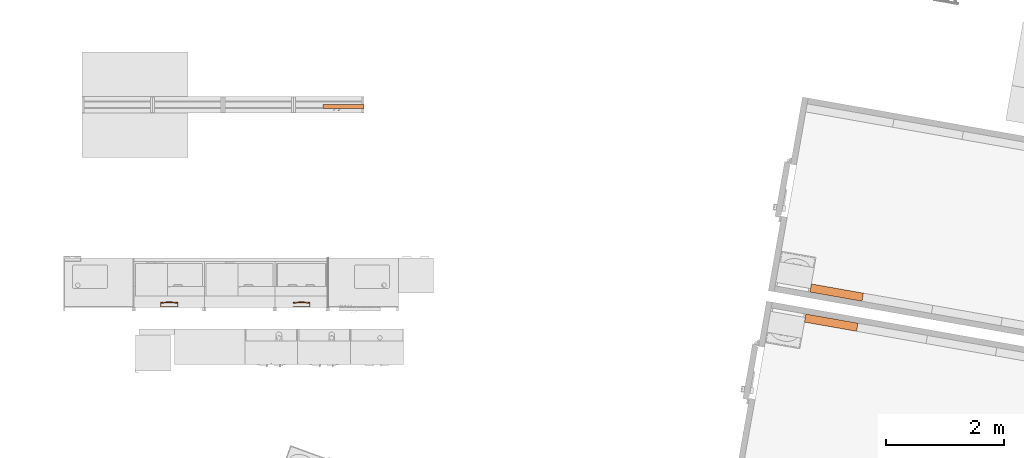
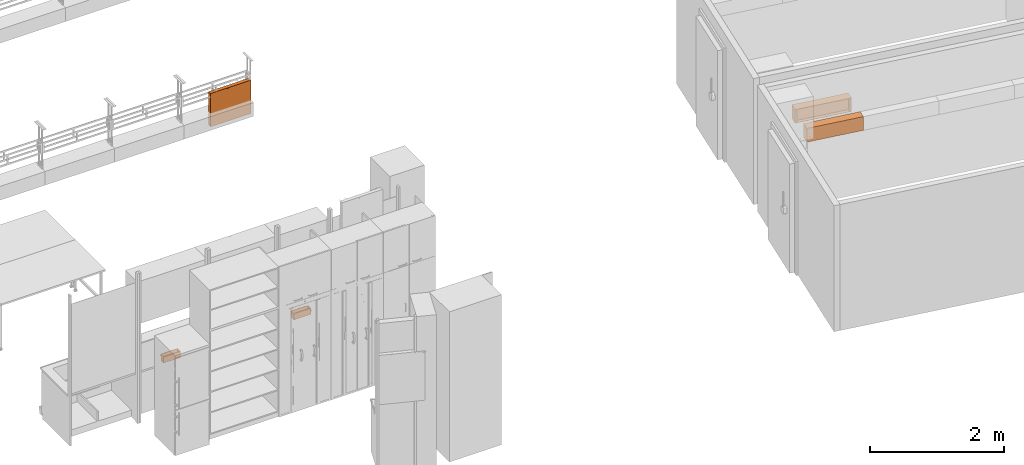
# One storey, part 21 of 32: 5 proxies.
"""IFC2X3 building model written with IfcOpenShell, lengths in metres."""

from ifc_helpers import new_model, entity, si_unit, converted_unit, derived_unit, direction, frame, frame_2d, origin, origin_2d_with_axis, place, context, subcontext, project, spatial, rectangle, extrude, face_set, surface_model, source, transform, mapped, material, material_list, type_object, type_shapes, element, save


model = new_model("IFC2X3")

# Units and contexts
model_context = context("Model", 3, precision=1e-05, world=origin(), true_north=direction((6.12303176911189e-17, 1.0)))
body_context = subcontext(model_context, "Body", "Model", "MODEL_VIEW")
ifc_project = project(units=[si_unit("LENGTHUNIT", "METRE"), si_unit("AREAUNIT", "SQUARE_METRE"), si_unit("VOLUMEUNIT", "CUBIC_METRE"), converted_unit("PLANEANGLEUNIT", "DEGREE", entity("IfcRatioMeasure", 0.0174532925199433), si_unit("PLANEANGLEUNIT", "RADIAN"), dimensions=[0, 0, 0, 0, 0, 0, 0]), si_unit("MASSUNIT", "GRAM", prefix="KILO"), derived_unit("MASSDENSITYUNIT", [(si_unit("MASSUNIT", "GRAM", prefix="KILO"), 1), (si_unit("LENGTHUNIT", "METRE"), -3)]), derived_unit("MOMENTOFINERTIAUNIT", [(si_unit("LENGTHUNIT", "METRE"), 4)]), si_unit("TIMEUNIT", "SECOND"), si_unit("FREQUENCYUNIT", "HERTZ"), si_unit("THERMODYNAMICTEMPERATUREUNIT", "DEGREE_CELSIUS"), derived_unit("THERMALTRANSMITTANCEUNIT", [(si_unit("MASSUNIT", "GRAM", prefix="KILO"), 1), (si_unit("THERMODYNAMICTEMPERATUREUNIT", "KELVIN"), -1), (si_unit("TIMEUNIT", "SECOND"), -3)]), derived_unit("VOLUMETRICFLOWRATEUNIT", [(si_unit("LENGTHUNIT", "METRE"), 3), (si_unit("TIMEUNIT", "SECOND"), -1)]), si_unit("ELECTRICCURRENTUNIT", "AMPERE"), si_unit("ELECTRICVOLTAGEUNIT", "VOLT"), si_unit("POWERUNIT", "WATT"), si_unit("FORCEUNIT", "NEWTON", prefix="KILO"), si_unit("ILLUMINANCEUNIT", "LUX"), si_unit("LUMINOUSFLUXUNIT", "LUMEN"), si_unit("LUMINOUSINTENSITYUNIT", "CANDELA"), derived_unit("USERDEFINED", [(si_unit("MASSUNIT", "GRAM", prefix="KILO"), -1), (si_unit("LENGTHUNIT", "METRE"), -2), (si_unit("TIMEUNIT", "SECOND"), 3), (si_unit("LUMINOUSFLUXUNIT", "LUMEN"), 1)]), derived_unit("LINEARVELOCITYUNIT", [(si_unit("LENGTHUNIT", "METRE"), 1), (si_unit("TIMEUNIT", "SECOND"), -1)]), si_unit("PRESSUREUNIT", "PASCAL"), derived_unit("USERDEFINED", [(si_unit("LENGTHUNIT", "METRE"), -2), (si_unit("MASSUNIT", "GRAM", prefix="KILO"), 1), (si_unit("TIMEUNIT", "SECOND"), -2)]), derived_unit("LINEARFORCEUNIT", [(si_unit("MASSUNIT", "GRAM", prefix="KILO"), 1), (si_unit("LENGTHUNIT", "METRE"), 1), (si_unit("TIMEUNIT", "SECOND"), -2), (si_unit("LENGTHUNIT", "METRE"), -1)]), derived_unit("PLANARFORCEUNIT", [(si_unit("MASSUNIT", "GRAM", prefix="KILO"), 1), (si_unit("LENGTHUNIT", "METRE"), 1), (si_unit("TIMEUNIT", "SECOND"), -2), (si_unit("LENGTHUNIT", "METRE"), -2)])], contexts=[model_context])

# Site, building, storey
site_placement = place(None, origin())
site = spatial("IfcSite", under=ifc_project, at=site_placement, Name="Default", CompositionType="ELEMENT")
building_placement = place(site_placement, origin())
building = spatial("IfcBuilding", under=site, at=building_placement, CompositionType="ELEMENT")
storey_placement = place(building_placement, origin())
storey = spatial("IfcBuildingStorey", under=building, at=storey_placement, Name="00 EG", CompositionType="ELEMENT", Elevation=0.0)

# Proxies
ifc_material_1 = material(Name="dh_Weiß")
building_element_proxy_type_1 = type_object("IfcBuildingElementProxyType", Name="dh_Trichterbecken:Trichterbecken-ST", PredefinedType="NOTDEFINED", material=ifc_material_1)
shared_shape_1 = source(origin(), body_context, "Body", "SurfaceModel", [
    surface_model("IfcFaceBasedSurfaceModel", [(0.00159527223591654, 0.00770363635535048, 0.113595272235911), (0.00159527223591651, 0.0967036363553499, 0.113595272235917), (0.295595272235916, 0.0967036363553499, 0.113595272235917), (0.295595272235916, 0.0077036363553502, 0.11359527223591), (0.148595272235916, 0.001595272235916, 0.113595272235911), (0.290595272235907, 0.0867036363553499, 0.11359527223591), (0.00659527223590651, 0.0867036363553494, 0.113595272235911), (0.00659527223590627, 0.0137036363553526, 0.113595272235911), (0.148595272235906, 0.00758737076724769, 0.113595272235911), (0.290595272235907, 0.0137036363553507, 0.11359527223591), (0.295595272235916, 0.0257036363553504, 0.001595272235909), (0.148595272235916, 0.0195952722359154, 0.0015952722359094), (0.001595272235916, 0.0257036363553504, 0.00159527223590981), (0.00159527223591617, 0.0967036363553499, 0.00159527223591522), (0.0515952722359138, 0.0967036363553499, 0.00159527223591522), (0.295595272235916, 0.0967036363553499, 0.00159527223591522), (0.00659527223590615, 0.0867036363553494, 0.00159527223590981), (0.00659527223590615, 0.0317036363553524, 0.00159527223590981), (0.148595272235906, 0.0255873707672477, 0.0015952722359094), (0.290595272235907, 0.0317036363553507, 0.001595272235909), (0.290595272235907, 0.0867036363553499, 0.001595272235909), (0.0515952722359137, 0.0867036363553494, 0.00159527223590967), (0.0750952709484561, 0.0046494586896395, 0.113595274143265), (0.0750952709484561, 0.0226494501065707, 0.00159527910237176), (0.197595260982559, 0.0216313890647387, 0.00159527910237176), (0.222095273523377, 0.0046494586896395, 0.113595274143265), (0.219595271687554, 0.0106455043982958, 0.113595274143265), (0.219595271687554, 0.0286455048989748, 0.00159527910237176), (0.0775952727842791, 0.0106455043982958, 0.113595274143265), (0.101261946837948, 0.0276261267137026, 0.00159527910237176), (0.0554775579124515, 0.0867036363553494, 0.00210638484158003), (0.0590952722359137, 0.0867036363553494, 0.00360489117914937), (0.0622018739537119, 0.0867036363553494, 0.00598867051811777), (0.0645856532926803, 0.0867036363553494, 0.00909527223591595), (0.0660841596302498, 0.0867036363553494, 0.0127129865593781), (0.0665952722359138, 0.0867036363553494, 0.0165952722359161), (0.0660841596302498, 0.0867036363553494, 0.0204775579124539), (0.0645856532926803, 0.0867036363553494, 0.0240952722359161), (0.0622018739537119, 0.0867036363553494, 0.0272018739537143), (0.0590952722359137, 0.0867036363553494, 0.0295856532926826), (0.0554775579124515, 0.0867036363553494, 0.031084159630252), (0.0515952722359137, 0.0867036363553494, 0.031595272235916), (0.0477129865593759, 0.0867036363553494, 0.031084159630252), (0.0440952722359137, 0.0867036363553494, 0.0295856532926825), (0.0409886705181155, 0.0867036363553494, 0.0272018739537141), (0.0386048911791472, 0.0867036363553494, 0.0240952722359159), (0.0371063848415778, 0.0867036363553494, 0.0204775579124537), (0.0365952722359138, 0.0867036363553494, 0.016595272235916), (0.0371063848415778, 0.0867036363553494, 0.0127129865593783), (0.0386048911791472, 0.0867036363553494, 0.00909527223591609), (0.0409886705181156, 0.0867036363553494, 0.00598867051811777), (0.0440952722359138, 0.0867036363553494, 0.00360489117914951), (0.0477129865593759, 0.0867036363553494, 0.00210638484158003), (0.0515952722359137, 0.0867036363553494, 0.00159527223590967), (0.0554775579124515, 0.0967036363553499, 0.00210638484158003), (0.0590952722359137, 0.0967036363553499, 0.00360489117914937), (0.0622018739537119, 0.0967036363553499, 0.00598867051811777), (0.0645856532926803, 0.0967036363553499, 0.00909527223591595), (0.0660841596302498, 0.0967036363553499, 0.0127129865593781), (0.0665952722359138, 0.0967036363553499, 0.0165952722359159), (0.0660841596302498, 0.0967036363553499, 0.0204775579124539), (0.0645856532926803, 0.0967036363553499, 0.0240952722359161), (0.0622018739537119, 0.0967036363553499, 0.0272018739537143), (0.0590952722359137, 0.0967036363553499, 0.0295856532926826), (0.0554775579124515, 0.0967036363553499, 0.031084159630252), (0.0515952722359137, 0.0967036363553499, 0.031595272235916), (0.0477129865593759, 0.0967036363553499, 0.031084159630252), (0.0440952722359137, 0.0967036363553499, 0.0295856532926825), (0.0409886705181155, 0.0967036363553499, 0.0272018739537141), (0.0386048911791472, 0.0967036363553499, 0.0240952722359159), (0.0371063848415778, 0.0967036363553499, 0.0204775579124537), (0.0365952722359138, 0.0967036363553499, 0.0165952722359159), (0.0371063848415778, 0.0967036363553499, 0.0127129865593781), (0.0386048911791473, 0.0967036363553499, 0.00909527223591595), (0.0409886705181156, 0.0967036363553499, 0.00598867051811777), (0.0440952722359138, 0.0967036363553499, 0.00360489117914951), (0.047712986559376, 0.0967036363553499, 0.00210638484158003), (0.0515952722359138, 0.0967036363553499, 0.00159527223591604)], [face_set([[[0, 1, 2, 3, 4], [5, 6, 7, 8, 9]], [[10, 11, 12, 13, 14, 15], [16, 17, 18, 19, 20, 21]], [[12, 22, 0]], [[23, 4, 22]], [[4, 23, 11]], [[4, 24, 25]], [[12, 23, 22]], [[10, 3, 25]], [[10, 25, 24]], [[24, 4, 11]], [[3, 10, 15, 2]], [[9, 19, 20, 5]], [[9, 26, 19]], [[18, 27, 26, 8]], [[28, 29, 8]], [[26, 27, 19]], [[28, 7, 17]], [[29, 28, 17]], [[18, 8, 29]], [[6, 7, 17, 16]], [[12, 13, 1, 0]], [[5, 20, 21, 30, 31, 32, 33, 34, 35, 36, 37, 38, 39, 40, 41, 42, 43, 44, 45, 46, 47, 48, 49, 50, 51, 52, 53, 16, 6]], [[2, 15, 14, 54, 55, 56, 57, 58, 59, 60, 61, 62, 63, 64, 65, 66, 67, 68, 69, 70, 71, 72, 73, 74, 75, 76, 77, 13, 1]], [[48, 72, 73, 49]], [[47, 71, 72, 48]], [[51, 75, 76, 52]], [[50, 74, 75, 51]], [[49, 73, 74, 50]], [[14, 21, 52, 76]], [[32, 56, 55, 31]], [[30, 54, 55, 31]], [[35, 59, 58, 34]], [[34, 58, 57, 33]], [[33, 57, 56, 32]], [[21, 14, 54, 30]], [[37, 61, 60, 36]], [[36, 60, 59, 35]], [[40, 64, 63, 39]], [[39, 63, 62, 38]], [[38, 62, 61, 37]], [[64, 40, 41, 65]], [[43, 67, 68, 44]], [[42, 66, 67, 43]], [[46, 70, 71, 47]], [[45, 69, 70, 46]], [[44, 68, 69, 45]], [[42, 66, 65, 41]]])]),
])
type_shapes(building_element_proxy_type_1, [shared_shape_1])
for number, where, z_axis, x_axis in (
    (1, (14.9485952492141, 10.311703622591, 0.898404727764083), (0.0, 0.0, 1.0), (-1.0, 0.0, 0.0)),
    (2, (12.6985952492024, 10.311703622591, 0.898404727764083), (0.0, 0.0, 1.0), (-1.0, 0.0, 0.0)),
):
    element("IfcBuildingElementProxy", number, at=place(storey_placement, frame(where, z_axis=z_axis, x_axis=x_axis)), inside=storey, type_object=building_element_proxy_type_1, material=ifc_material_1, Name="dh_Trichterbecken:Trichterbecken-ST", ObjectType="dh_Trichterbecken:Trichterbecken-ST", context=body_context, shape_type="MappedRepresentation", body=[
        mapped(shared_shape_1, transform((0.0, 0.0, 0.0), scale=1.0)),
    ])
ifc_material_2 = material(Name="dh_EZ blau")
ifc_material_list_1 = material_list([ifc_material_2, ifc_material_1])
ifc_material_3 = material(Name="dh_Blau")
ifc_material_list_2 = material_list([ifc_material_1, ifc_material_2, ifc_material_3])
building_element_proxy_type_2 = type_object("IfcBuildingElementProxyType", Name="dh_Einzel_ MEK:MEK 90", PredefinedType="NOTDEFINED", material=ifc_material_list_2)
shared_shape_2 = source(origin(), body_context, "Body", "SweptSolid", [
    extrude(rectangle(XDim=0.06, YDim=0.0299999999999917, at=origin_2d_with_axis()), frame((0.285000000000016, 0.33, 1.25499999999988), z_axis=(0.0, 0.0, 1.0), x_axis=(0.0, 1.0, 0.0)), (0.0, 0.0, 1.0), 0.240000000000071),
    extrude(rectangle(XDim=0.06, YDim=0.0299999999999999, at=origin_2d_with_axis()), frame((-0.584999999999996, 0.33, 1.25499999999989), z_axis=(0.0, 0.0, 1.0), x_axis=(0.0, 1.0, 0.0)), (0.0, 0.0, 1.0), 0.240000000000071),
    extrude(rectangle(XDim=0.06, YDim=0.900000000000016, at=origin_2d_with_axis()), frame((-0.149999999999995, 0.33, 1.49499999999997), z_axis=(0.0, 0.0, 1.0), x_axis=(0.0, 1.0, 0.0)), (0.0, 0.0, 1.0), 0.00499999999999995),
    extrude(rectangle(XDim=0.900000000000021, YDim=0.14, at=frame_2d((-2.55351295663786e-15, -0.00333333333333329), x_axis=(1.0, 0.0))), frame((-0.149999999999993, 0.293333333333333, 1.24999999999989)), (0.0, 0.0, 1.0), 0.00499999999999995),
    extrude(rectangle(XDim=0.08, YDim=0.900000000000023, at=frame_2d((0.0133333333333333, 0.0), x_axis=(1.0, 0.0))), frame((-0.149999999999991, 0.273333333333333, 1.49499999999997), z_axis=(0.0, 0.0, 1.0), x_axis=(0.0, -1.0, 0.0)), (0.0, 0.0, 1.0), 0.00499999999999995),
    extrude(rectangle(XDim=0.9, YDim=0.08, at=origin_2d_with_axis()), frame((-0.15, 0.26, 1.25499999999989), z_axis=(0.0, 0.0, 1.0), x_axis=(-1.0, 0.0, 0.0)), (0.0, 0.0, 1.0), 0.24000000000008),
])
type_shapes(building_element_proxy_type_2, [shared_shape_2])
proxy_1_placement = place(storey_placement, frame((23.8135409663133, 10.7753845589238, 0.0), z_axis=(0.0, 0.0, 1.0), x_axis=(-0.984807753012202, 0.173648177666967, 0.0)))
element("IfcBuildingElementProxy", 3, at=proxy_1_placement, inside=storey, type_object=building_element_proxy_type_2, material=ifc_material_list_1, Name="dh_Einzel_ MEK:MEK 90", ObjectType="dh_Einzel_ MEK:MEK 90", context=body_context, shape_type="MappedRepresentation", body=[
    mapped(shared_shape_2, transform((0.0, 0.0, 0.0), scale=1.0)),
])
ifc_material_list_3 = material_list([ifc_material_2, ifc_material_1])
proxy_2_placement = place(storey_placement, frame((23.9160006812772, 9.64034887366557, 0.0), z_axis=(0.0, 0.0, 1.0), x_axis=(0.984807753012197, -0.173648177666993, 0.0)))
element("IfcBuildingElementProxy", 4, at=proxy_2_placement, inside=storey, type_object=building_element_proxy_type_2, material=ifc_material_list_3, Name="dh_Einzel_ MEK:MEK 90", ObjectType="dh_Einzel_ MEK:MEK 90", context=body_context, shape_type="MappedRepresentation", body=[
    mapped(shared_shape_2, transform((0.0, 0.0, 0.0), scale=1.0)),
])
ifc_material_4 = material(Name="dh_Stellfläche")
building_element_proxy_type_3 = type_object("IfcBuildingElementProxyType", Name="dh_Gerät_Stellfläche Bestand:Nutzergerät", PredefinedType="NOTDEFINED", material=ifc_material_4)
shared_shape_3 = source(origin(), body_context, "Body", "SurfaceModel", [
    surface_model("IfcFaceBasedSurfaceModel", [(-0.355113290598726, -0.0453817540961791, 0.615000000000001), (-0.35670056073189, -0.0470458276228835, 0.615000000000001), (-0.346946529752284, -0.0567998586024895, 0.615000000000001), (-0.332277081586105, -0.0616384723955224, 0.615000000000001), (-0.312948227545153, -0.0616384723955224, 0.615000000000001), (-0.298278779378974, -0.0567998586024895, 0.615000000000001), (-0.288166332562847, -0.0466618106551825, 0.615000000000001), (-0.288166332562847, -0.0314547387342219, 0.615000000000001), (-0.29308174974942, -0.0214446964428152, 0.615000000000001), (-0.298073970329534, -0.0163500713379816, 0.615000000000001), (-0.30790480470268, -0.0115114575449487, 0.615000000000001), (-0.336450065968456, -0.00188543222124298, 0.615000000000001), (-0.345692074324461, 0.00295318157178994, 0.615000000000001), (-0.350197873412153, 0.00745898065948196, 0.615000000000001), (-0.354857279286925, 0.0166497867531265, 0.615000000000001), (-0.354857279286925, 0.0255845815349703, 0.615000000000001), (-0.345820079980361, 0.0347241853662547, 0.615000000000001), (-0.331944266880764, 0.0393579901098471, 0.615000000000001), (-0.313204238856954, 0.0393579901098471, 0.615000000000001), (-0.299328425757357, 0.0347241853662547, 0.615000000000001), (-0.290112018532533, 0.0252005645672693, 0.615000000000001), (-0.288447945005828, 0.0268646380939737, 0.615000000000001), (-0.298278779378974, 0.0366186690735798, 0.615000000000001), (-0.312948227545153, 0.041585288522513, 0.615000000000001), (-0.332277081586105, 0.041585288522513, 0.615000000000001), (-0.346946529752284, 0.0366186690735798, 0.615000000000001), (-0.356982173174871, 0.0264550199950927, 0.615000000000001), (-0.356982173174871, 0.016112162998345, 0.615000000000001), (-0.352117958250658, 0.00610212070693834, 0.615000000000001), (-0.347074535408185, 0.00100749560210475, 0.615000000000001), (-0.337243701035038, -0.00383111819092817, 0.615000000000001), (-0.308698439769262, -0.0134571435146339, 0.615000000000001), (-0.299456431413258, -0.0182957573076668, 0.615000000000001), (-0.294950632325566, -0.0228015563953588, 0.615000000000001), (-0.290368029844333, -0.0320691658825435, 0.615000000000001), (-0.290368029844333, -0.0457657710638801, 0.615000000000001), (-0.299328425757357, -0.0549053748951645, 0.615000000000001), (-0.313204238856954, -0.0595647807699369, 0.615000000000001), (-0.331944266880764, -0.0595647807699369, 0.615000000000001), (-0.345820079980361, -0.0549053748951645, 0.615000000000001), (-0.230691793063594, -0.0616384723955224, 0.615000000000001), (-0.230691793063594, -0.0595647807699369, 0.615000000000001), (-0.239908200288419, -0.0595647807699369, 0.615000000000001), (-0.248740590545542, -0.055084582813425, 0.615000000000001), (-0.253399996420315, -0.0413879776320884, 0.615000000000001), (-0.253399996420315, 0.00533408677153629, 0.615000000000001), (-0.235402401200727, 0.00533408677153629, 0.615000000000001), (-0.235402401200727, 0.00745898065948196, 0.615000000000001), (-0.253399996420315, 0.00745898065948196, 0.615000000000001), (-0.253399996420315, 0.0399468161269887, 0.615000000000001), (-0.25557609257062, 0.0399468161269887, 0.615000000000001), (-0.25557609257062, 0.00745898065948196, 0.615000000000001), (-0.268735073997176, 0.00745898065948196, 0.615000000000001), (-0.268735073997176, 0.00533408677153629, 0.615000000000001), (-0.25557609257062, 0.00533408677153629, 0.615000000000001), (-0.25557609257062, -0.0416439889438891, 0.615000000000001), (-0.250660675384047, -0.0566974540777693, 0.615000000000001), (-0.2404458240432, -0.0616384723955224, 0.615000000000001), (-0.201327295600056, -0.0599999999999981, 0.615000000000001), (-0.19920240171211, -0.0599999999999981, 0.615000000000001), (-0.19920240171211, 0.00666534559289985, 0.615000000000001), (-0.201327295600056, 0.00666534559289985, 0.615000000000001), (-0.173294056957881, -0.0922318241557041, 0.615000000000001), (-0.173294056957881, -0.0944079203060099, 0.615000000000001), (-0.163744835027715, -0.0944079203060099, 0.615000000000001), (-0.153581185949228, -0.0893644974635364, 0.615000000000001), (-0.148665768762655, -0.0744390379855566, 0.615000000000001), (-0.148665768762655, 0.00651173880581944, 0.615000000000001), (-0.150867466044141, 0.00651173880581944, 0.615000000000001), (-0.150867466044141, -0.0741574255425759, 0.615000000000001), (-0.155501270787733, -0.087700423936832, 0.615000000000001), (-0.164333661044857, -0.0922318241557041, 0.615000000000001), (-0.100049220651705, -0.0875980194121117, 0.615000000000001), (-0.101175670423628, -0.0895181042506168, 0.615000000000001), (-0.0913448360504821, -0.0944079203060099, 0.615000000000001), (-0.0765473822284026, -0.0944079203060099, 0.615000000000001), (-0.0666397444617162, -0.0895181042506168, 0.615000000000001), (-0.0615963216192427, -0.0843466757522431, 0.615000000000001), (-0.0566809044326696, -0.069728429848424, 0.615000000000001), (-0.0566809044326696, 0.00615332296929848, 0.615000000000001), (-0.0588826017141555, 0.00615332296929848, 0.615000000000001), (-0.0588826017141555, -0.00552079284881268, 0.615000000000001), (-0.0666397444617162, 0.0023387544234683, 0.615000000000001), (-0.0765473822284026, 0.00717736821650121, 0.615000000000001), (-0.0913448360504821, 0.00717736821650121, 0.615000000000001), (-0.101303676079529, 0.0023387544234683, 0.615000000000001), (-0.111057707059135, -0.00756888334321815, 0.615000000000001), (-0.115973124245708, -0.0221871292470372, 0.615000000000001), (-0.115973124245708, -0.0319923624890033, 0.615000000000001), (-0.111057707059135, -0.0465850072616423, 0.615000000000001), (-0.101303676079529, -0.0564926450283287, 0.615000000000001), (-0.0913448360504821, -0.0612544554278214, 0.615000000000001), (-0.0765473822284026, -0.0612544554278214, 0.615000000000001), (-0.0666397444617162, -0.0564926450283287, 0.615000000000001), (-0.0588826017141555, -0.0485818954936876, 0.615000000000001), (-0.0588826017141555, -0.0694724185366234, 0.615000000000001), (-0.0634652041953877, -0.0832970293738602, 0.615000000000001), (-0.0679710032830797, -0.0875980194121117, 0.615000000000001), (-0.077059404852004, -0.0922318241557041, 0.615000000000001), (-0.0908072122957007, -0.0922318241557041, 0.615000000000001), (-0.0588826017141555, -0.0452537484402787, 0.615000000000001), (-0.0679710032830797, -0.0542909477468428, 0.615000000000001), (-0.077059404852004, -0.0588735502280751, 0.615000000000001), (-0.0908072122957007, -0.0588735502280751, 0.615000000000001), (-0.099921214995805, -0.0542909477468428, 0.615000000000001), (-0.10921442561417, -0.0451257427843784, 0.615000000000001), (-0.113797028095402, -0.0312499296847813, 0.615000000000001), (-0.113797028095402, -0.0220079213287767, 0.615000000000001), (-0.10921442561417, -0.00813210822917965, 0.615000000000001), (-0.099921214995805, 0.000956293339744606, 0.615000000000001), (-0.0908072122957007, 0.00561569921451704, 0.615000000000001), (-0.077059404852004, 0.00561569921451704, 0.615000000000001), (-0.0679710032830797, 0.000956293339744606, 0.615000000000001), (-0.0588826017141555, -0.00800410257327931, 0.615000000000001), (-0.0178183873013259, -0.0599999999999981, 0.615000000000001), (-0.0156934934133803, -0.0599999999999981, 0.615000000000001), (-0.0156934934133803, -0.0413367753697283, 0.615000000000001), (0.00230410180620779, -0.0235439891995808, 0.615000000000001), (0.0347919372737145, -0.0599999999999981, 0.615000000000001), (0.0364560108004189, -0.0587455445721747, 0.615000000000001), (0.00376336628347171, -0.0214958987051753, 0.615000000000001), (0.0316685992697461, 0.00625572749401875, 0.615000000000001), (0.0300813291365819, 0.00784299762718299, 0.615000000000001), (-0.0156934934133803, -0.0379574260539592, 0.615000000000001), (-0.0156934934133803, 0.0399468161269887, 0.615000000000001), (-0.0178183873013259, 0.0399468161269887, 0.615000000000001), (0.120146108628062, -0.0469178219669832, 0.615000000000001), (0.125061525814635, -0.0322227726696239, 0.615000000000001), (0.125061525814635, -0.0223663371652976, 0.615000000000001), (0.120146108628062, -0.00767128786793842, 0.615000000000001), (0.110315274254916, 0.00231315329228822, 0.615000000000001), (0.10040763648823, 0.00717736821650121, 0.615000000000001), (0.0856101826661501, 0.00717736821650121, 0.615000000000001), (0.0756513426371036, 0.00231315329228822, 0.615000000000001), (0.0658973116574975, -0.00767128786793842, 0.615000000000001), (0.0609818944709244, -0.0223663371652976, 0.615000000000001), (0.0609818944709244, -0.0322227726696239, 0.615000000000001), (0.0658973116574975, -0.0469178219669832, 0.615000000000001), (0.0756513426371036, -0.0568510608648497, 0.615000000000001), (0.0856101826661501, -0.0616384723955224, 0.615000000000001), (0.10040763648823, -0.0616384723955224, 0.615000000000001), (0.110315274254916, -0.0568510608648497, 0.615000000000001), (0.118200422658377, -0.0451257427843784, 0.615000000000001), (0.108984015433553, -0.0542909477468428, 0.615000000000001), (0.0998956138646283, -0.0588735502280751, 0.615000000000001), (0.0861478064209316, -0.0588735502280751, 0.615000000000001), (0.0770338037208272, -0.0542909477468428, 0.615000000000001), (0.0677405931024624, -0.0451257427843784, 0.615000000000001), (0.0631579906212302, -0.0312499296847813, 0.615000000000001), (0.0631579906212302, -0.0220079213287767, 0.615000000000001), (0.0677405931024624, -0.00813210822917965, 0.615000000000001), (0.0770338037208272, 0.000956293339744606, 0.615000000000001), (0.0861478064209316, 0.00561569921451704, 0.615000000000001), (0.0998956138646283, 0.00561569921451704, 0.615000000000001), (0.108984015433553, 0.000956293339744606, 0.615000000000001), (0.118200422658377, -0.00813210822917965, 0.615000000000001), (0.12285982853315, -0.0220079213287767, 0.615000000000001), (0.12285982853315, -0.0312499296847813, 0.615000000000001), (0.159136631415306, -0.0599999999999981, 0.615000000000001), (0.161261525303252, -0.0599999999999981, 0.615000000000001), (0.161261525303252, -0.0413367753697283, 0.615000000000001), (0.17925912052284, -0.0235439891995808, 0.615000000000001), (0.211746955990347, -0.0599999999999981, 0.615000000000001), (0.213411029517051, -0.0587455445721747, 0.615000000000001), (0.180718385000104, -0.0214958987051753, 0.615000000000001), (0.208623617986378, 0.00625572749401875, 0.615000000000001), (0.207036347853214, 0.00784299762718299, 0.615000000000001), (0.161261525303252, -0.0379574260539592, 0.615000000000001), (0.161261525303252, 0.0399468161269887, 0.615000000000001), (0.159136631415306, 0.0399468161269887, 0.615000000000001), (0.296973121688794, -0.0471994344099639, 0.615000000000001), (0.29530904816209, -0.0455353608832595, 0.615000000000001), (0.285939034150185, -0.0549821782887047, 0.615000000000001), (0.276850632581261, -0.0595647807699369, 0.615000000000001), (0.263102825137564, -0.0595647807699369, 0.615000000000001), (0.25398882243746, -0.0549821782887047, 0.615000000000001), (0.244695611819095, -0.0457913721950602, 0.615000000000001), (0.240113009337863, -0.0318899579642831, 0.615000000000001), (0.240113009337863, -0.0236463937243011, 0.615000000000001), (0.297229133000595, -0.0236463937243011, 0.615000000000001), (0.297229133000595, -0.0127147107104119, 0.615000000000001), (0.292313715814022, -0.00273026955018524, 0.615000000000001), (0.287270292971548, 0.00231315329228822, 0.615000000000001), (0.277362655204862, 0.00717736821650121, 0.615000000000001), (0.262565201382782, 0.00717736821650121, 0.615000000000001), (0.252606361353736, 0.00231315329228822, 0.615000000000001), (0.24285233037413, -0.00767128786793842, 0.615000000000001), (0.237936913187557, -0.0223663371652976, 0.615000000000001), (0.237936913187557, -0.0322227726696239, 0.615000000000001), (0.24285233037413, -0.0469178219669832, 0.615000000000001), (0.252606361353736, -0.0568510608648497, 0.615000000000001), (0.262565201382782, -0.0616384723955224, 0.615000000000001), (0.277362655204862, -0.0616384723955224, 0.615000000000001), (0.287270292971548, -0.0568510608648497, 0.615000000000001), (0.240522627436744, -0.0214446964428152, 0.615000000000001), (0.244695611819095, -0.00874653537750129, 0.615000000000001), (0.25398882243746, 0.000341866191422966, 0.615000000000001), (0.263102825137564, 0.0050012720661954, 0.615000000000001), (0.276850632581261, 0.0050012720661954, 0.615000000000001), (0.285939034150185, 0.000341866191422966, 0.615000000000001), (0.290444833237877, -0.00416393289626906, 0.615000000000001), (0.295027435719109, -0.0132779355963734, 0.615000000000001), (0.295027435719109, -0.0214446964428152, 0.615000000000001), (0.331176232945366, -0.0599999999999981, 0.615000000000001), (0.333301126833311, -0.0599999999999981, 0.615000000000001), (0.333301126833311, -0.0223407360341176, 0.615000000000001), (0.337960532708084, -0.00856732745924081, 0.615000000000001), (0.347202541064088, 0.000469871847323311, 0.615000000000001), (0.356342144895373, 0.00507807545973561, 0.615000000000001), (0.37037156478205, 0.00507807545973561, 0.615000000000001), (0.37037156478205, 0.00717736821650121, 0.615000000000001), (0.355753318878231, 0.00717736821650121, 0.615000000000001), (0.345871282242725, 0.00236435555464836, 0.615000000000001), (0.336040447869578, -0.00751768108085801, 0.615000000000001), (0.333301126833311, -0.0156076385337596, 0.615000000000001), (0.333301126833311, 0.00630692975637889, 0.615000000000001), (0.331176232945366, 0.00630692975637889, 0.615000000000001), (-0.149792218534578, 0.0291175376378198, 0.615000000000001), (-0.143494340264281, 0.0353386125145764, 0.615000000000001), (-0.149792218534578, 0.041585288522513, 0.615000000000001), (-0.156038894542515, 0.0353386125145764, 0.615000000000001), (-0.149792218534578, 0.0319592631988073, 0.615000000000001), (-0.153043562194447, 0.035210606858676, 0.615000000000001), (-0.149792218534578, 0.0384875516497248, 0.615000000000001), (-0.146464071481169, 0.035210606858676, 0.615000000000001), (-0.200252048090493, 0.0291175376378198, 0.615000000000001), (-0.194005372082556, 0.0353386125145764, 0.615000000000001), (-0.200252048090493, 0.041585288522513, 0.615000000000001), (-0.206498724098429, 0.0353386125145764, 0.615000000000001), (-0.200252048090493, 0.0319592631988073, 0.615000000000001), (-0.203503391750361, 0.035210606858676, 0.615000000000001), (-0.200252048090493, 0.0384875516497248, 0.615000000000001), (-0.197000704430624, 0.035210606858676, 0.615000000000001), (0.35, 0.0, 0.61), (0.35, -0.06, 0.61), (-0.35, -0.06, 0.61), (-0.35, 0.0, 0.61), (0.35, 0.0, 0.0), (0.35, -0.06, 0.0), (-0.35, -0.06, 0.0), (-0.35, 0.0, 0.0)], [face_set([[[0, 1, 2, 3, 4, 5, 6, 7, 8, 9, 10, 11, 12, 13, 14, 15, 16, 17, 18, 19, 20, 21, 22, 23, 24, 25, 26, 27, 28, 29, 30, 31, 32, 33, 34, 35, 36, 37, 38, 39]]]), face_set([[[40, 41, 42, 43, 44, 45, 46, 47, 48, 49, 50, 51, 52, 53, 54, 55, 56, 57]]]), face_set([[[58, 59, 60, 61]]]), face_set([[[62, 63, 64, 65, 66, 67, 68, 69, 70, 71]]]), face_set([[[72, 73, 74, 75, 76, 77, 78, 79, 80, 81, 82, 83, 84, 85, 86, 87, 88, 89, 90, 91, 92, 93, 94, 95, 96, 97, 98, 99], [100, 101, 102, 103, 104, 105, 106, 107, 108, 109, 110, 111, 112, 113]]]), face_set([[[114, 115, 116, 117, 118, 119, 120, 121, 122, 123, 124, 125]]]), face_set([[[126, 127, 128, 129, 130, 131, 132, 133, 134, 135, 136, 137, 138, 139, 140, 141], [142, 143, 144, 145, 146, 147, 148, 149, 150, 151, 152, 153, 154, 155, 156, 157]]]), face_set([[[158, 159, 160, 161, 162, 163, 164, 165, 166, 167, 168, 169]]]), face_set([[[170, 171, 172, 173, 174, 175, 176, 177, 178, 179, 180, 181, 182, 183, 184, 185, 186, 187, 188, 189, 190, 191, 192, 193], [194, 195, 196, 197, 198, 199, 200, 201, 202]]]), face_set([[[203, 204, 205, 206, 207, 208, 209, 210, 211, 212, 213, 214, 215, 216]]]), face_set([[[217, 218, 219, 220], [221, 222, 223, 224]]]), face_set([[[225, 226, 227, 228], [229, 230, 231, 232]]]), face_set([[[233, 234, 235, 236]], [[237, 238, 239, 240]], [[236, 233, 237, 240]], [[235, 236, 240, 239]], [[234, 238, 239, 235]], [[233, 234, 238, 237]]])]),
])
type_shapes(building_element_proxy_type_3, [shared_shape_3])
proxy_3_placement = place(storey_placement, frame((15.5179999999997, 13.6612249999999, 2.19)))
element("IfcBuildingElementProxy", 5, at=proxy_3_placement, inside=storey, type_object=building_element_proxy_type_3, material=ifc_material_4, Name="dh_Gerät_Stellfläche Bestand:Nutzergerät", ObjectType="dh_Gerät_Stellfläche Bestand:Nutzergerät", context=body_context, shape_type="MappedRepresentation", body=[
    mapped(shared_shape_3, transform((0.0, 0.0, 0.0), scale=1.0)),
])

save(model, "model.ifc")
